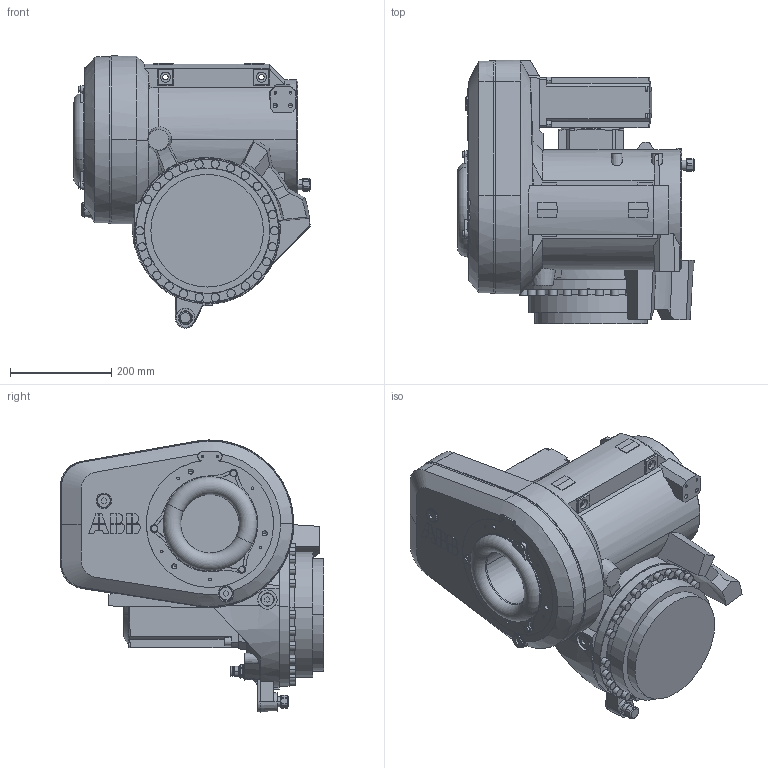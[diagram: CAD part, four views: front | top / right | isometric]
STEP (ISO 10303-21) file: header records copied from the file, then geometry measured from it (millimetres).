
FILE_DESCRIPTION (( 'STEP AP214' ), '1' );
FILE_NAME ('IRB5710-MH3_110kg-230_OmniCore_rev00_LINK03_CAD.STEP', '2021-04-20T11:54:40', ( '' ), ( '' ), 'SwSTEP 2.0', 'SolidWorks 2018', '' );
FILE_SCHEMA (( 'AUTOMOTIVE_DESIGN' ));
Length unit declared in the file: millimetre
Products named in the file (1): IRB5710-MH3_110kg-230_OmniCore_rev00_LINK03_CAD
Bounding box: 468.99 x 521 x 538.61 mm (x, y, z)
Volume: 40482878.4 mm3; surface area: 1329980.7 mm2
Topology: 1 solids, 11 shells, 1004 faces, 2563 edges, 1662 vertices
Faces by surface type: plane 524, cylinder 284, cone 152, bspline 32, torus 11, sphere 1
Entity records: 39343 total; most frequent: CARTESIAN_POINT 14343, ORIENTED_EDGE 5058, DIRECTION 4913, EDGE_CURVE 2529, AXIS2_PLACEMENT_3D 1800, VERTEX_POINT 1661, VECTOR 1313, LINE 1313
